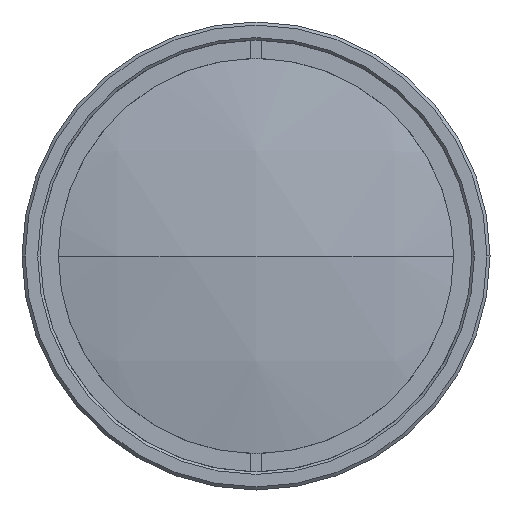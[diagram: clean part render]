
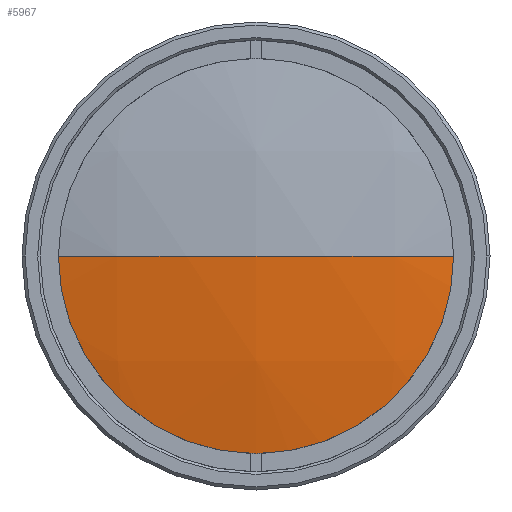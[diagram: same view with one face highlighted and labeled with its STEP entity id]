
A CAD part, left-side view. The second image highlights one B-rep face of the part: STEP entity #5967.
In plain terms, the highlighted spherical face has radius 92.5 mm.
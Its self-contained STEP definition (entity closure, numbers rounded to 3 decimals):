
#428 = DIRECTION ( 'NONE',  ( 0., 0., 1. ) ) ;
#642 = DIRECTION ( 'NONE',  ( 0., 0., 1. ) ) ;
#863 = CARTESIAN_POINT ( 'NONE',  ( 2.188, 0., -20. ) ) ;
#1416 = EDGE_CURVE ( 'NONE', #5696, #10186, #10442, .T. ) ;
#1633 = EDGE_LOOP ( 'NONE', ( #11589, #10903, #3859, #8320 ) ) ;
#1715 = CARTESIAN_POINT ( 'NONE',  ( 92.5, 0., 0. ) ) ;
#1846 = DIRECTION ( 'NONE',  ( -1., 0., 0. ) ) ;
#2167 = DIRECTION ( 'NONE',  ( -1., 0., 0. ) ) ;
#3242 = CARTESIAN_POINT ( 'NONE',  ( 2.188, 0., 0. ) ) ;
#3306 = CARTESIAN_POINT ( 'NONE',  ( 2.188, -20., 0. ) ) ;
#3338 = DIRECTION ( 'NONE',  ( 0., 0., -1. ) ) ;
#3369 = VERTEX_POINT ( 'NONE', #863 ) ;
#3859 = ORIENTED_EDGE ( 'NONE', *, *, #1416, .F. ) ;
#3960 = EDGE_CURVE ( 'NONE', #5696, #3369, #7619, .T. ) ;
#4064 = EDGE_CURVE ( 'NONE', #8142, #10186, #10717, .T. ) ;
#4074 = DIRECTION ( 'NONE',  ( 0., 0., -1. ) ) ;
#4171 = AXIS2_PLACEMENT_3D ( 'NONE', #11175, #1846, #5505 ) ;
#4235 = FACE_OUTER_BOUND ( 'NONE', #1633, .T. ) ;
#4898 = EDGE_CURVE ( 'NONE', #3369, #8142, #8230, .T. ) ;
#4934 = AXIS2_PLACEMENT_3D ( 'NONE', #8574, #4074, #6767 ) ;
#5370 = DIRECTION ( 'NONE',  ( 1., 0., 0. ) ) ;
#5505 = DIRECTION ( 'NONE',  ( 0., 0., 1. ) ) ;
#5529 = AXIS2_PLACEMENT_3D ( 'NONE', #3242, #2167, #428 ) ;
#5696 = VERTEX_POINT ( 'NONE', #6808 ) ;
#5967 = ADVANCED_FACE ( 'NONE', ( #4235 ), #8747, .T. ) ;
#6767 = DIRECTION ( 'NONE',  ( 0., 1., 0. ) ) ;
#6808 = CARTESIAN_POINT ( 'NONE',  ( 2.188, 20., 0. ) ) ;
#7619 = CIRCLE ( 'NONE', #4171, 20. ) ;
#7876 = AXIS2_PLACEMENT_3D ( 'NONE', #11569, #3338, #11313 ) ;
#8142 = VERTEX_POINT ( 'NONE', #3306 ) ;
#8230 = CIRCLE ( 'NONE', #5529, 20. ) ;
#8320 = ORIENTED_EDGE ( 'NONE', *, *, #3960, .T. ) ;
#8574 = CARTESIAN_POINT ( 'NONE',  ( 92.5, 0., 0. ) ) ;
#8747 = SPHERICAL_SURFACE ( 'NONE', #7876, 92.5 ) ;
#10186 = VERTEX_POINT ( 'NONE', #10702 ) ;
#10442 = CIRCLE ( 'NONE', #11582, 92.5 ) ;
#10702 = CARTESIAN_POINT ( 'NONE',  ( 0., 0., 0. ) ) ;
#10717 = CIRCLE ( 'NONE', #4934, 92.5 ) ;
#10903 = ORIENTED_EDGE ( 'NONE', *, *, #4064, .T. ) ;
#11175 = CARTESIAN_POINT ( 'NONE',  ( 2.188, 0., 0. ) ) ;
#11313 = DIRECTION ( 'NONE',  ( 0., 1., 0. ) ) ;
#11569 = CARTESIAN_POINT ( 'NONE',  ( 92.5, 0., 0. ) ) ;
#11582 = AXIS2_PLACEMENT_3D ( 'NONE', #1715, #642, #5370 ) ;
#11589 = ORIENTED_EDGE ( 'NONE', *, *, #4898, .T. ) ;
